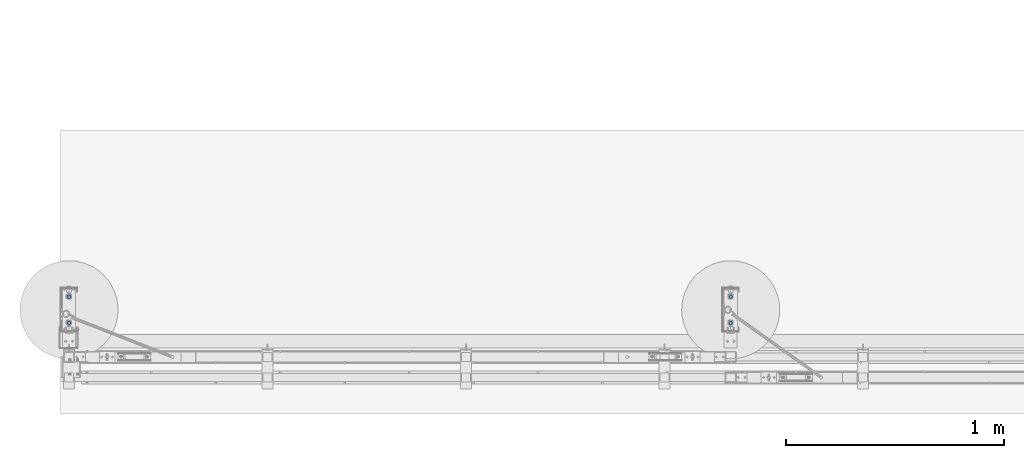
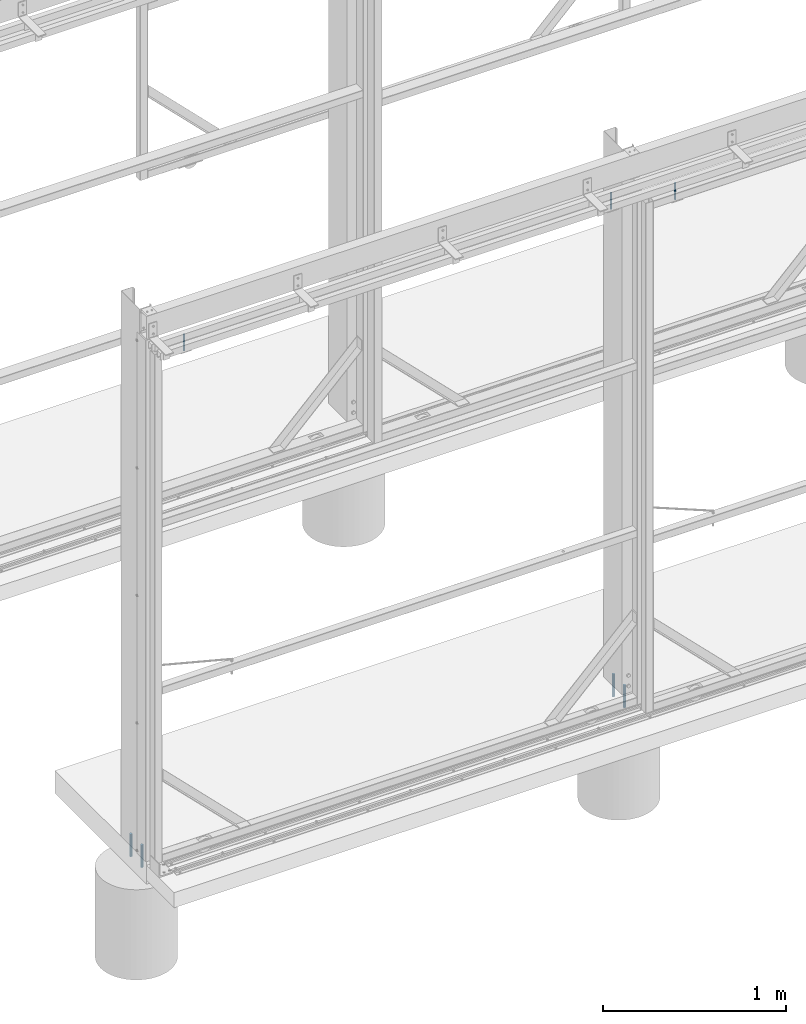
# One storey, part 3 of 91: 7 columns, 7 elements without a shape of their own.
"""IFC2X3 building model written with IfcOpenShell, lengths in millimetres."""

from ifc_helpers import new_model, si_unit, frame, origin_with_axes, origin_2d_with_axis, place, context, subcontext, project, spatial, circle, extrude, boolean, material, type_object, element, aggregate, save


model = new_model("IFC2X3")

# Units and contexts
model_context = context("Model", 3, precision=1e-05, world=origin_with_axes())
body_context = subcontext(model_context, "Body", "Model", "MODEL_VIEW")
ifc_project = project(units=[si_unit("LENGTHUNIT", "METRE", prefix="MILLI"), si_unit("AREAUNIT", "SQUARE_METRE"), si_unit("VOLUMEUNIT", "CUBIC_METRE"), si_unit("MASSUNIT", "GRAM", prefix="KILO"), si_unit("TIMEUNIT", "SECOND"), si_unit("PLANEANGLEUNIT", "RADIAN"), si_unit("SOLIDANGLEUNIT", "STERADIAN"), si_unit("THERMODYNAMICTEMPERATUREUNIT", "DEGREE_CELSIUS"), si_unit("LUMINOUSINTENSITYUNIT", "LUMEN")], contexts=[model_context])

# Site, building, storey
site_placement = place(None, origin_with_axes())
site = spatial("IfcSite", under=ifc_project, at=site_placement, Name="Undefined", CompositionType="ELEMENT")
building_placement = place(site_placement, origin_with_axes())
building = spatial("IfcBuilding", under=site, at=building_placement, Name="Undefined", CompositionType="ELEMENT")
storey_placement = place(building_placement, origin_with_axes())
storey = spatial("IfcBuildingStorey", under=building, at=storey_placement, Name="Undefined", CompositionType="ELEMENT", Elevation=0.0)

# Assembly, column
assembly_1_placement = place(storey_placement, origin_with_axes())
assembly_1 = element("IfcElementAssembly", 1, at=assembly_1_placement, inside=storey, Name="ROD", AssemblyPlace="NOTDEFINED", PredefinedType="RIGID_FRAME")
ifc_material_1 = material(Name="STEEL/250")
column_type_1 = type_object("IfcColumnType", Name="D12", PredefinedType="NOTDEFINED")
column_1_placement = place(assembly_1_placement, frame((-113583.34, 84618.15, 3320.0), z_axis=(0.0, 0.0, 1.0), x_axis=(1.0, 0.0, 0.0)))
column_1 = element("IfcColumn", 2, at=column_1_placement, type_object=column_type_1, material=ifc_material_1, Name="ROD", ObjectType="D12", context=body_context, shape_type="CSG", body=[
    boolean("DIFFERENCE", extrude(circle(Radius=6.0, at=origin_2d_with_axis()), frame((0.0, 0.0, 110.0), z_axis=(0.0, 0.0, -1.0), x_axis=(0.0, 1.0, 0.0)), (0.0, 0.0, 1.0), 110.0), extrude(circle(Radius=3.5, at=origin_2d_with_axis()), frame((0.0, 15.0, 101.0), z_axis=(0.0, -1.0, 0.0), x_axis=(0.0, 0.0, -1.0)), (0.0, 0.0, 1.0), 30.0)),
])
aggregate(assembly_1, [column_1])

assembly_2_placement = place(storey_placement, origin_with_axes())
assembly_2 = element("IfcElementAssembly", 3, at=assembly_2_placement, inside=storey, Name="ROD", AssemblyPlace="NOTDEFINED", PredefinedType="RIGID_FRAME")
column_2_placement = place(assembly_2_placement, frame((-113933.34, 84712.15, 3320.0), z_axis=(0.0, 0.0, 1.0), x_axis=(1.0, 0.0, 0.0)))
column_2 = element("IfcColumn", 4, at=column_2_placement, type_object=column_type_1, material=ifc_material_1, Name="ROD", ObjectType="D12", context=body_context, shape_type="CSG", body=[
    boolean("DIFFERENCE", extrude(circle(Radius=6.0, at=origin_2d_with_axis()), frame((0.0, 0.0, 110.0), z_axis=(0.0, 0.0, -1.0), x_axis=(0.0, 1.0, 0.0)), (0.0, 0.0, 1.0), 110.0), extrude(circle(Radius=3.5, at=origin_2d_with_axis()), frame((0.0, 15.0, 101.0), z_axis=(0.0, -1.0, 0.0), x_axis=(0.0, 0.0, -1.0)), (0.0, 0.0, 1.0), 30.0)),
])
aggregate(assembly_2, [column_2])

assembly_3_placement = place(storey_placement, origin_with_axes())
assembly_3 = element("IfcElementAssembly", 5, at=assembly_3_placement, inside=storey, Name="ROD", AssemblyPlace="NOTDEFINED", PredefinedType="RIGID_FRAME")
column_3_placement = place(assembly_3_placement, frame((-116620.84, 84712.15, 3320.0), z_axis=(0.0, 0.0, 1.0), x_axis=(1.0, 0.0, 0.0)))
column_3 = element("IfcColumn", 6, at=column_3_placement, type_object=column_type_1, material=ifc_material_1, Name="ROD", ObjectType="D12", context=body_context, shape_type="CSG", body=[
    boolean("DIFFERENCE", extrude(circle(Radius=6.0, at=origin_2d_with_axis()), frame((0.0, 0.0, 110.0), z_axis=(0.0, 0.0, -1.0), x_axis=(0.0, 1.0, 0.0)), (0.0, 0.0, 1.0), 110.0), extrude(circle(Radius=3.5, at=origin_2d_with_axis()), frame((0.0, 15.0, 101.0), z_axis=(0.0, -1.0, 0.0), x_axis=(0.0, 0.0, -1.0)), (0.0, 0.0, 1.0), 30.0)),
])
aggregate(assembly_3, [column_3])

assembly_4_placement = place(storey_placement, origin_with_axes())
assembly_4 = element("IfcElementAssembly", 7, at=assembly_4_placement, inside=storey, Name="THROUGH BOLTS", AssemblyPlace="NOTDEFINED", PredefinedType="RIGID_FRAME")
ifc_material_2 = material(Name="STEEL/300")
column_type_2 = type_object("IfcColumnType", Name="D16", PredefinedType="NOTDEFINED")
column_4_placement = place(assembly_4_placement, frame((-116795.84, 84868.65, -151.0), z_axis=(0.0, 0.0, 1.0), x_axis=(0.0, 1.0, 0.0)))
column_4 = element("IfcColumn", 8, at=column_4_placement, type_object=column_type_2, material=ifc_material_2, Name="THROUGH BOLTS", ObjectType="D16", context=body_context, shape_type="SweptSolid", body=[
    extrude(circle(Radius=8.0, at=origin_2d_with_axis()), frame((0.0, 0.0, 150.0), z_axis=(0.0, 0.0, -1.0), x_axis=(0.0, 1.0, 0.0)), (0.0, 0.0, 1.0), 150.0),
])
aggregate(assembly_4, [column_4])

assembly_5_placement = place(storey_placement, origin_with_axes())
assembly_5 = element("IfcElementAssembly", 9, at=assembly_5_placement, inside=storey, Name="THROUGH BOLTS", AssemblyPlace="NOTDEFINED", PredefinedType="RIGID_FRAME")
column_5_placement = place(assembly_5_placement, frame((-116795.84, 84988.65, -151.0), z_axis=(0.0, 0.0, 1.0), x_axis=(0.0, 1.0, 0.0)))
column_5 = element("IfcColumn", 10, at=column_5_placement, type_object=column_type_2, material=ifc_material_2, Name="THROUGH BOLTS", ObjectType="D16", context=body_context, shape_type="SweptSolid", body=[
    extrude(circle(Radius=8.0, at=origin_2d_with_axis()), frame((0.0, 0.0, 150.0), z_axis=(0.0, 0.0, -1.0), x_axis=(0.0, 1.0, 0.0)), (0.0, 0.0, 1.0), 150.0),
])
aggregate(assembly_5, [column_5])

assembly_6_placement = place(storey_placement, origin_with_axes())
assembly_6 = element("IfcElementAssembly", 11, at=assembly_6_placement, inside=storey, Name="THROUGH BOLTS", AssemblyPlace="NOTDEFINED", PredefinedType="RIGID_FRAME")
column_6_placement = place(assembly_6_placement, frame((-113758.34, 84868.65, -151.0), z_axis=(0.0, 0.0, 1.0), x_axis=(0.0, 1.0, 0.0)))
column_6 = element("IfcColumn", 12, at=column_6_placement, type_object=column_type_2, material=ifc_material_2, Name="THROUGH BOLTS", ObjectType="D16", context=body_context, shape_type="SweptSolid", body=[
    extrude(circle(Radius=8.0, at=origin_2d_with_axis()), frame((0.0, 0.0, 150.0), z_axis=(0.0, 0.0, -1.0), x_axis=(0.0, 1.0, 0.0)), (0.0, 0.0, 1.0), 150.0),
])
aggregate(assembly_6, [column_6])

assembly_7_placement = place(storey_placement, origin_with_axes())
assembly_7 = element("IfcElementAssembly", 13, at=assembly_7_placement, inside=storey, Name="THROUGH BOLTS", AssemblyPlace="NOTDEFINED", PredefinedType="RIGID_FRAME")
column_7_placement = place(assembly_7_placement, frame((-113758.34, 84988.65, -151.0), z_axis=(0.0, 0.0, 1.0), x_axis=(0.0, 1.0, 0.0)))
column_7 = element("IfcColumn", 14, at=column_7_placement, type_object=column_type_2, material=ifc_material_2, Name="THROUGH BOLTS", ObjectType="D16", context=body_context, shape_type="SweptSolid", body=[
    extrude(circle(Radius=8.0, at=origin_2d_with_axis()), frame((0.0, 0.0, 150.0), z_axis=(0.0, 0.0, -1.0), x_axis=(0.0, 1.0, 0.0)), (0.0, 0.0, 1.0), 150.0),
])
aggregate(assembly_7, [column_7])

save(model, "model.ifc")
